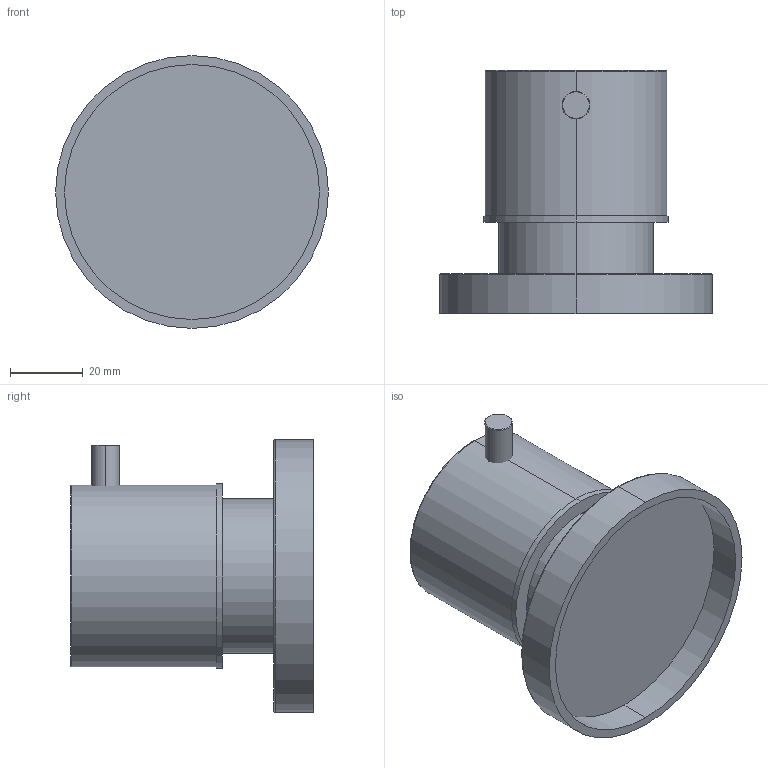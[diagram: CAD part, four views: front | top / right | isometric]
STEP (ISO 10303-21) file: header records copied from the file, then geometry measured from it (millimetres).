
FILE_DESCRIPTION (( 'STEP AP203' ), '1' );
FILE_NAME ('ms.ac50l.STEP', '2018-08-13T12:11:27', ( '' ), ( '' ), 'SwSTEP 2.0', 'SolidWorks 2018', '' );
FILE_SCHEMA (( 'CONFIG_CONTROL_DESIGN' ));
Length unit declared in the file: millimetre
Products named in the file (1): ms.ac50l
Bounding box: 75 x 66.77 x 75 mm (x, y, z)
Volume: 118589 mm3; surface area: 33065.2 mm2
Topology: 5 solids, 5 shells, 29 faces, 48 edges, 30 vertices
Faces by surface type: cylinder 12, plane 11, torus 4, cone 2
Entity records: 757 total; most frequent: DIRECTION 142, CARTESIAN_POINT 108, ORIENTED_EDGE 96, AXIS2_PLACEMENT_3D 64, EDGE_CURVE 48, CIRCLE 34, VERTEX_POINT 30, EDGE_LOOP 30
